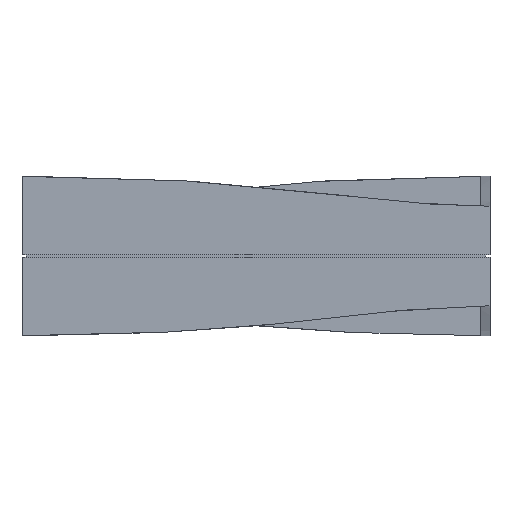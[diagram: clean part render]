
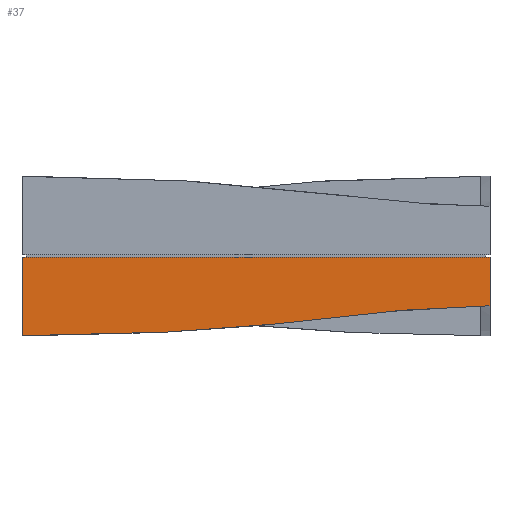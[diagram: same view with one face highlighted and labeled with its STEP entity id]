
A CAD part, front view. The second image highlights one B-rep face of the part: STEP entity #37.
In plain terms, the highlighted planar face has unit normal (0, -1, 0).
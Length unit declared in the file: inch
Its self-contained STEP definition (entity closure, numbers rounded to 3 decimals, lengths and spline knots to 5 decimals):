
#37=ADVANCED_FACE('',(#77),#601,.T.);
#77=FACE_OUTER_BOUND('',#117,.T.);
#117=EDGE_LOOP('',(#220,#221,#222,#223));
#220=ORIENTED_EDGE('',*,*,#377,.T.);
#221=ORIENTED_EDGE('',*,*,#357,.F.);
#222=ORIENTED_EDGE('',*,*,#376,.F.);
#223=ORIENTED_EDGE('',*,*,#372,.F.);
#357=EDGE_CURVE('',#541,#544,#453,.T.);
#372=EDGE_CURVE('',#549,#553,#468,.T.);
#376=EDGE_CURVE('',#553,#541,#472,.T.);
#377=EDGE_CURVE('',#549,#544,#473,.T.);
#453=B_SPLINE_CURVE_WITH_KNOTS('',3,(#935,#936,#937,#938),.UNSPECIFIED.,
 .F.,.F.,(4,4),(-122.06282,-98.45025),.UNSPECIFIED.);
#468=B_SPLINE_CURVE_WITH_KNOTS('',1,(#981,#982),.UNSPECIFIED.,.F.,.F.,(2,
2),(0.,23.5),.UNSPECIFIED.);
#472=B_SPLINE_CURVE_WITH_KNOTS('',1,(#989,#990),.UNSPECIFIED.,.F.,.F.,(2,
2),(-124.01282,-122.06282),.UNSPECIFIED.);
#473=B_SPLINE_CURVE_WITH_KNOTS('',1,(#991,#992),.UNSPECIFIED.,.F.,.F.,(2,
2),(571.96622,575.90372),.UNSPECIFIED.);
#541=VERTEX_POINT('',#918);
#544=VERTEX_POINT('',#921);
#549=VERTEX_POINT('',#926);
#553=VERTEX_POINT('',#930);
#601=PLANE('',#732);
#732=AXIS2_PLACEMENT_3D('',#914,#767,$);
#767=DIRECTION('',(0.,-1.,0.));
#914=CARTESIAN_POINT('',(1128.91362,-238.88925,248.83914));
#918=CARTESIAN_POINT('',(1152.41362,-238.88925,246.40164));
#921=CARTESIAN_POINT('',(1128.91362,-238.88925,244.90164));
#926=CARTESIAN_POINT('',(1128.91362,-238.88925,248.83914));
#930=CARTESIAN_POINT('',(1152.41362,-238.88925,248.83914));
#935=CARTESIAN_POINT('',(1152.41362,-238.88925,246.40164));
#936=CARTESIAN_POINT('',(1146.06766,-238.88925,246.40164));
#937=CARTESIAN_POINT('',(1142.00576,-238.88925,244.90164));
#938=CARTESIAN_POINT('',(1128.91362,-238.88925,244.90164));
#981=CARTESIAN_POINT('',(1128.91362,-238.88925,248.83914));
#982=CARTESIAN_POINT('',(1152.41362,-238.88925,248.83914));
#989=CARTESIAN_POINT('',(1152.41362,-238.88925,248.83914));
#990=CARTESIAN_POINT('',(1152.41362,-238.88925,246.40164));
#991=CARTESIAN_POINT('',(1128.91362,-238.88925,248.83914));
#992=CARTESIAN_POINT('',(1128.91362,-238.88925,244.90164));
